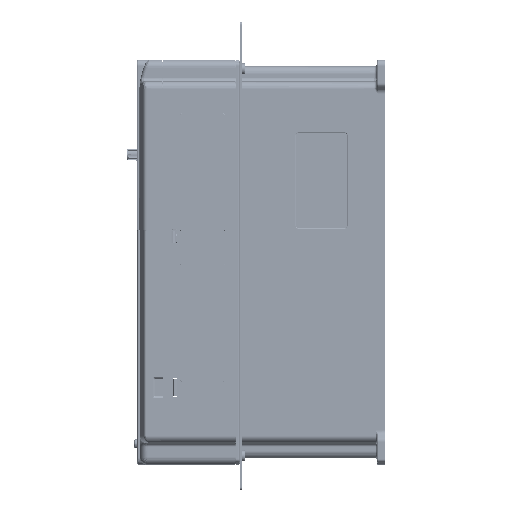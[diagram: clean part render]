
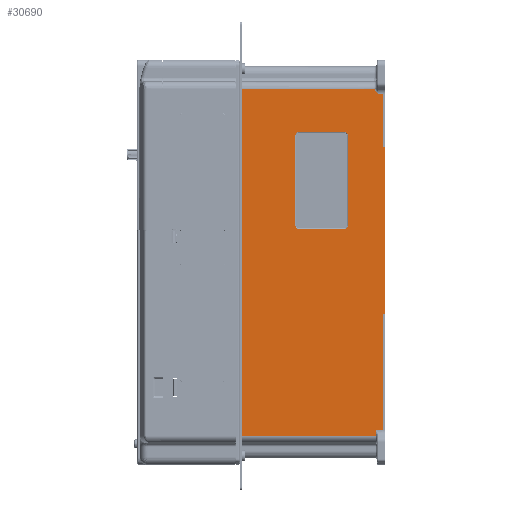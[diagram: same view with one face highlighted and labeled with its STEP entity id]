
A CAD part, left-side view. The second image highlights one B-rep face of the part: STEP entity #30690.
In plain terms, the highlighted planar face has unit normal (-1, 0, 0).
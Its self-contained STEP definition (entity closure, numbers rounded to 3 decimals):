
#2=CARTESIAN_POINT('',(-80.,-63.,29.));
#3=DIRECTION('',(1.,0.,0.));
#4=DIRECTION('',(0.,-1.,0.));
#5=AXIS2_PLACEMENT_3D('',#2,#3,#4);
#7=DIRECTION('',(0.,0.,-1.));
#8=VECTOR('',#7,71.4);
#9=CARTESIAN_POINT('',(-80.,-65.458,100.4));
#10=LINE('',#9,#8);
#11=CARTESIAN_POINT('',(-80.,-63.,100.4));
#12=DIRECTION('',(1.,0.,0.));
#13=DIRECTION('',(0.,0.,1.));
#14=AXIS2_PLACEMENT_3D('',#11,#12,#13);
#16=DIRECTION('',(0.,-1.,0.));
#17=VECTOR('',#16,36.4);
#18=CARTESIAN_POINT('',(-80.,-26.6,102.858));
#19=LINE('',#18,#17);
#20=CARTESIAN_POINT('',(-80.,-26.6,100.4));
#21=DIRECTION('',(1.,0.,0.));
#22=DIRECTION('',(0.,1.,0.));
#23=AXIS2_PLACEMENT_3D('',#20,#21,#22);
#25=DIRECTION('',(0.,0.,1.));
#26=VECTOR('',#25,71.4);
#27=CARTESIAN_POINT('',(-80.,-24.142,29.));
#28=LINE('',#27,#26);
#29=CARTESIAN_POINT('',(-80.,-26.6,29.));
#30=DIRECTION('',(1.,0.,0.));
#31=DIRECTION('',(0.,0.,-1.));
#32=AXIS2_PLACEMENT_3D('',#29,#30,#31);
#34=DIRECTION('',(0.,1.,0.));
#35=VECTOR('',#34,36.4);
#36=CARTESIAN_POINT('',(-80.,-63.,26.542));
#37=LINE('',#36,#35);
#38=DIRECTION('',(0.,0.,-1.));
#39=VECTOR('',#38,4.071);
#40=CARTESIAN_POINT('',(-80.,-87.5,-132.929));
#41=LINE('',#40,#39);
#42=DIRECTION('',(0.,-1.,0.));
#43=VECTOR('',#42,107.5);
#44=CARTESIAN_POINT('',(-80.,20.,-137.));
#45=LINE('',#44,#43);
#46=DIRECTION('',(0.,0.,1.));
#47=VECTOR('',#46,274.);
#48=CARTESIAN_POINT('',(-80.,20.,-137.));
#49=LINE('',#48,#47);
#50=DIRECTION('',(0.,-1.,0.));
#51=VECTOR('',#50,106.671);
#52=CARTESIAN_POINT('',(-80.,20.,137.));
#53=LINE('',#52,#51);
#54=CARTESIAN_POINT('',(-80.,-87.069,135.929));
#55=CARTESIAN_POINT('',(-80.,-86.985,136.092));
#56=CARTESIAN_POINT('',(-80.,-86.835,136.434));
#57=CARTESIAN_POINT('',(-80.,-86.72,136.806));
#58=CARTESIAN_POINT('',(-80.,-86.671,137.));
#60=CARTESIAN_POINT('',(-80.,-88.5,133.958));
#61=CARTESIAN_POINT('',(-80.,-88.348,134.124));
#62=CARTESIAN_POINT('',(-80.,-88.058,134.453));
#63=CARTESIAN_POINT('',(-80.,-87.675,134.941));
#64=CARTESIAN_POINT('',(-80.,-87.34,135.434));
#65=CARTESIAN_POINT('',(-80.,-87.153,135.764));
#66=CARTESIAN_POINT('',(-80.,-87.069,135.929));
#68=DIRECTION('',(0.,-1.,0.));
#69=VECTOR('',#68,4.);
#70=CARTESIAN_POINT('',(-80.,-89.5,132.929));
#71=LINE('',#70,#69);
#72=DIRECTION('',(0.,0.,1.));
#73=VECTOR('',#72,42.129);
#74=CARTESIAN_POINT('',(-80.,-93.5,90.8));
#75=LINE('',#74,#73);
#76=DIRECTION('',(0.,1.,0.));
#77=VECTOR('',#76,1.5);
#78=CARTESIAN_POINT('',(-80.,-95.,90.8));
#79=LINE('',#78,#77);
#80=DIRECTION('',(0.,1.,0.));
#81=VECTOR('',#80,1.5);
#82=CARTESIAN_POINT('',(-80.,-95.,-40.8));
#83=LINE('',#82,#81);
#84=DIRECTION('',(0.,0.,1.));
#85=VECTOR('',#84,92.129);
#86=CARTESIAN_POINT('',(-80.,-93.5,-132.929));
#87=LINE('',#86,#85);
#190=DIRECTION('',(0.,-1.,0.));
#191=VECTOR('',#190,6.);
#192=CARTESIAN_POINT('',(-80.,-87.5,
-132.929));
#193=LINE('',#192,#191);
#3898=CARTESIAN_POINT('',(-80.,-89.5,132.929));
#3899=CARTESIAN_POINT('',(-80.,-89.34,133.089));
#3900=CARTESIAN_POINT('',(-80.,-89.012,
133.417));
#3901=CARTESIAN_POINT('',(-80.,-88.671,
133.772));
#3902=CARTESIAN_POINT('',(-80.,-88.5,
133.958));
#17846=DIRECTION('',(0.,0.,1.));
#17847=VECTOR('',#17846,131.6);
#17848=CARTESIAN_POINT('',(-80.,-95.,-40.8));
#17849=LINE('',#17848,#17847);
#24620=CARTESIAN_POINT('',(-80.,-93.5,-132.929));
#24621=CARTESIAN_POINT('',(-80.,-93.5,-40.8));
#24622=VERTEX_POINT('',#24620);
#24623=VERTEX_POINT('',#24621);
#24624=CARTESIAN_POINT('',(-80.,-93.5,90.8));
#24625=CARTESIAN_POINT('',(-80.,-93.5,132.929));
#24626=VERTEX_POINT('',#24624);
#24627=VERTEX_POINT('',#24625);
#25832=CARTESIAN_POINT('',(-80.,-95.,-40.8));
#25833=VERTEX_POINT('',#25832);
#25836=CARTESIAN_POINT('',(-80.,-95.,90.8));
#25837=VERTEX_POINT('',#25836);
#26872=CARTESIAN_POINT('',(-80.,-89.5,132.929));
#26873=VERTEX_POINT('',#26872);
#27030=CARTESIAN_POINT('',(-80.,-87.5,
-132.929));
#27031=CARTESIAN_POINT('',(-80.,-87.5,-137.));
#27032=VERTEX_POINT('',#27030);
#27033=VERTEX_POINT('',#27031);
#27394=CARTESIAN_POINT('',(-80.,-65.458,29.));
#27395=CARTESIAN_POINT('',(-80.,-63.,26.542));
#27396=VERTEX_POINT('',#27394);
#27397=VERTEX_POINT('',#27395);
#27402=CARTESIAN_POINT('',(-80.,-26.6,26.542));
#27403=VERTEX_POINT('',#27402);
#27406=CARTESIAN_POINT('',(-80.,-24.142,29.));
#27407=VERTEX_POINT('',#27406);
#27410=CARTESIAN_POINT('',(-80.,-24.142,100.4));
#27411=VERTEX_POINT('',#27410);
#27414=CARTESIAN_POINT('',(-80.,-26.6,102.858));
#27415=VERTEX_POINT('',#27414);
#27418=CARTESIAN_POINT('',(-80.,-63.,102.858));
#27419=VERTEX_POINT('',#27418);
#27422=CARTESIAN_POINT('',(-80.,-65.458,100.4));
#27423=VERTEX_POINT('',#27422);
#29485=CARTESIAN_POINT('',(-80.,20.,-137.));
#29486=CARTESIAN_POINT('',(-80.,20.,137.));
#29487=VERTEX_POINT('',#29485);
#29488=VERTEX_POINT('',#29486);
#29628=CARTESIAN_POINT('',(-80.,-86.671,
137.));
#29629=VERTEX_POINT('',#29628);
#30630=VERTEX_POINT('',#60);
#30631=VERTEX_POINT('',#66);
#30637=CARTESIAN_POINT('',(-80.,-95.,-155.));
#30638=DIRECTION('',(-1.,0.,0.));
#30639=DIRECTION('',(0.,0.,1.));
#30640=AXIS2_PLACEMENT_3D('',#30637,#30638,#30639);
#30641=PLANE('',#30640);
#30643=ORIENTED_EDGE('',*,*,#30642,.T.);
#30645=ORIENTED_EDGE('',*,*,#30644,.F.);
#30647=ORIENTED_EDGE('',*,*,#30646,.T.);
#30649=ORIENTED_EDGE('',*,*,#30648,.T.);
#30651=ORIENTED_EDGE('',*,*,#30650,.F.);
#30653=ORIENTED_EDGE('',*,*,#30652,.F.);
#30655=ORIENTED_EDGE('',*,*,#30654,.F.);
#30657=ORIENTED_EDGE('',*,*,#30656,.T.);
#30659=ORIENTED_EDGE('',*,*,#30658,.F.);
#30661=ORIENTED_EDGE('',*,*,#30660,.F.);
#30663=ORIENTED_EDGE('',*,*,#30662,.F.);
#30665=ORIENTED_EDGE('',*,*,#30664,.T.);
#30667=ORIENTED_EDGE('',*,*,#30666,.F.);
#30669=ORIENTED_EDGE('',*,*,#30668,.F.);
#30670=EDGE_LOOP('',(#30643,#30645,#30647,#30649,#30651,#30653,#30655,#30657,
#30659,#30661,#30663,#30665,#30667,#30669));
#30671=FACE_OUTER_BOUND('',#30670,.F.);
#30673=ORIENTED_EDGE('',*,*,#30672,.F.);
#30675=ORIENTED_EDGE('',*,*,#30674,.F.);
#30677=ORIENTED_EDGE('',*,*,#30676,.F.);
#30679=ORIENTED_EDGE('',*,*,#30678,.F.);
#30681=ORIENTED_EDGE('',*,*,#30680,.F.);
#30683=ORIENTED_EDGE('',*,*,#30682,.F.);
#30685=ORIENTED_EDGE('',*,*,#30684,.F.);
#30687=ORIENTED_EDGE('',*,*,#30686,.F.);
#30688=EDGE_LOOP('',(#30673,#30675,#30677,#30679,#30681,#30683,#30685,#30687));
#30689=FACE_BOUND('',#30688,.F.);
#6=CIRCLE('',#5,2.458);
#15=CIRCLE('',#14,2.458);
#24=CIRCLE('',#23,2.458);
#33=CIRCLE('',#32,2.458);
#59=B_SPLINE_CURVE_WITH_KNOTS('',3,(#54,#55,#56,#57,#58),.UNSPECIFIED.,.F.,.F.,(
4,1,4),(0.,0.5,1.),.UNSPECIFIED.);
#67=B_SPLINE_CURVE_WITH_KNOTS('',3,(#60,#61,#62,#63,#64,#65,#66),.UNSPECIFIED.,
.F.,.F.,(4,1,1,1,4),(0.,0.25,0.5,0.75,1.),.UNSPECIFIED.);
#3903=B_SPLINE_CURVE_WITH_KNOTS('',3,(#3898,#3899,#3900,#3901,#3902),
.UNSPECIFIED.,.F.,.F.,(4,1,4),(0.,0.5,1.),.UNSPECIFIED.);
#30642=EDGE_CURVE('',#27032,#27033,#41,.T.);
#30644=EDGE_CURVE('',#29487,#27033,#45,.T.);
#30646=EDGE_CURVE('',#29487,#29488,#49,.T.);
#30648=EDGE_CURVE('',#29488,#29629,#53,.T.);
#30650=EDGE_CURVE('',#30631,#29629,#59,.T.);
#30652=EDGE_CURVE('',#30630,#30631,#67,.T.);
#30654=EDGE_CURVE('',#26873,#30630,#3903,.T.);
#30656=EDGE_CURVE('',#26873,#24627,#71,.T.);
#30658=EDGE_CURVE('',#24626,#24627,#75,.T.);
#30660=EDGE_CURVE('',#25837,#24626,#79,.T.);
#30662=EDGE_CURVE('',#25833,#25837,#17849,.T.);
#30664=EDGE_CURVE('',#25833,#24623,#83,.T.);
#30666=EDGE_CURVE('',#24622,#24623,#87,.T.);
#30668=EDGE_CURVE('',#27032,#24622,#193,.T.);
#30672=EDGE_CURVE('',#27396,#27397,#6,.T.);
#30674=EDGE_CURVE('',#27423,#27396,#10,.T.);
#30676=EDGE_CURVE('',#27419,#27423,#15,.T.);
#30678=EDGE_CURVE('',#27415,#27419,#19,.T.);
#30680=EDGE_CURVE('',#27411,#27415,#24,.T.);
#30682=EDGE_CURVE('',#27407,#27411,#28,.T.);
#30684=EDGE_CURVE('',#27403,#27407,#33,.T.);
#30686=EDGE_CURVE('',#27397,#27403,#37,.T.);
#30690=ADVANCED_FACE('',(#30671,#30689),#30641,.T.);
